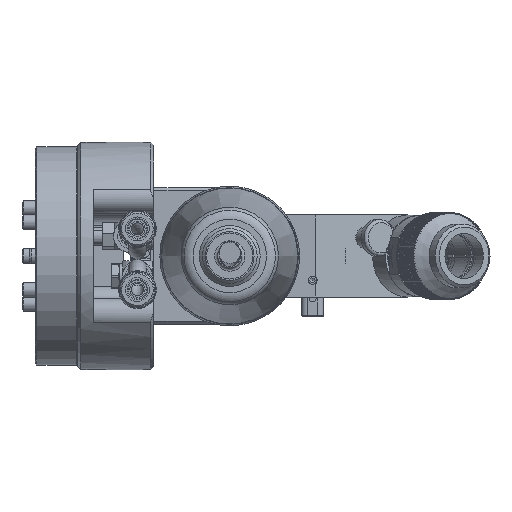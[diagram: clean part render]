
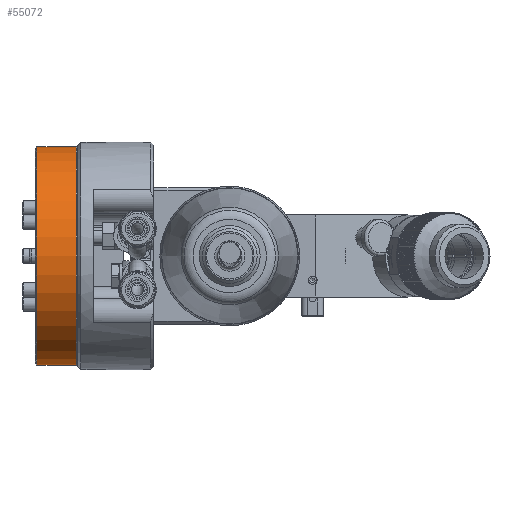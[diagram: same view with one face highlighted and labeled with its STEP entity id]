
A CAD part, left-side view. The second image highlights one B-rep face of the part: STEP entity #55072.
In plain terms, the highlighted cylindrical face has radius 36 mm (diameter 72 mm), a full revolution.
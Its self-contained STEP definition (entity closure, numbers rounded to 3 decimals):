
#6875=LINE('',#165431,#10505);
#10505=VECTOR('',#66899,36.);
#12251=CYLINDRICAL_SURFACE('',#58312,36.);
#14250=FACE_OUTER_BOUND('',#17323,.T.);
#17323=EDGE_LOOP('',(#42943,#42944,#42945,#42946,#42947,#42948));
#19668=CIRCLE('',#58310,36.);
#19669=CIRCLE('',#58311,36.);
#19670=CIRCLE('',#58313,36.);
#19671=CIRCLE('',#58314,36.);
#23952=VERTEX_POINT('',#165421);
#23953=VERTEX_POINT('',#165422);
#23954=VERTEX_POINT('',#165427);
#23955=VERTEX_POINT('',#165428);
#30764=EDGE_CURVE('',#23952,#23953,#19668,.T.);
#30765=EDGE_CURVE('',#23953,#23952,#19669,.T.);
#30767=EDGE_CURVE('',#23954,#23955,#19670,.T.);
#30768=EDGE_CURVE('',#23955,#23954,#19671,.T.);
#30769=EDGE_CURVE('',#23955,#23953,#6875,.T.);
#42943=ORIENTED_EDGE('',*,*,#30767,.F.);
#42944=ORIENTED_EDGE('',*,*,#30768,.F.);
#42945=ORIENTED_EDGE('',*,*,#30769,.T.);
#42946=ORIENTED_EDGE('',*,*,#30764,.F.);
#42947=ORIENTED_EDGE('',*,*,#30765,.F.);
#42948=ORIENTED_EDGE('',*,*,#30769,.F.);
#55072=ADVANCED_FACE('',(#14250),#12251,.T.);
#58310=AXIS2_PLACEMENT_3D('',#165423,#66888,#66889);
#58311=AXIS2_PLACEMENT_3D('',#165424,#66890,#66891);
#58312=AXIS2_PLACEMENT_3D('',#165426,#66893,#66894);
#58313=AXIS2_PLACEMENT_3D('',#165429,#66895,#66896);
#58314=AXIS2_PLACEMENT_3D('',#165430,#66897,#66898);
#66888=DIRECTION('center_axis',(0.,1.,0.));
#66889=DIRECTION('ref_axis',(1.,0.,0.));
#66890=DIRECTION('center_axis',(0.,1.,0.));
#66891=DIRECTION('ref_axis',(1.,0.,0.));
#66893=DIRECTION('center_axis',(0.,-1.,0.));
#66894=DIRECTION('ref_axis',(-1.,0.,0.));
#66895=DIRECTION('center_axis',(0.,-1.,0.));
#66896=DIRECTION('ref_axis',(1.,0.,0.));
#66897=DIRECTION('center_axis',(0.,-1.,0.));
#66898=DIRECTION('ref_axis',(1.,0.,0.));
#66899=DIRECTION('',(0.,1.,0.));
#165421=CARTESIAN_POINT('',(82.5,63.5,0.));
#165422=CARTESIAN_POINT('',(154.5,63.5,0.));
#165423=CARTESIAN_POINT('Origin',(118.5,63.5,0.));
#165424=CARTESIAN_POINT('Origin',(118.5,63.5,0.));
#165426=CARTESIAN_POINT('Origin',(118.5,53.5,0.));
#165427=CARTESIAN_POINT('',(82.5,50.5,0.));
#165428=CARTESIAN_POINT('',(154.5,50.5,0.));
#165429=CARTESIAN_POINT('Origin',(118.5,50.5,0.));
#165430=CARTESIAN_POINT('Origin',(118.5,50.5,0.));
#165431=CARTESIAN_POINT('',(154.5,53.5,0.));
